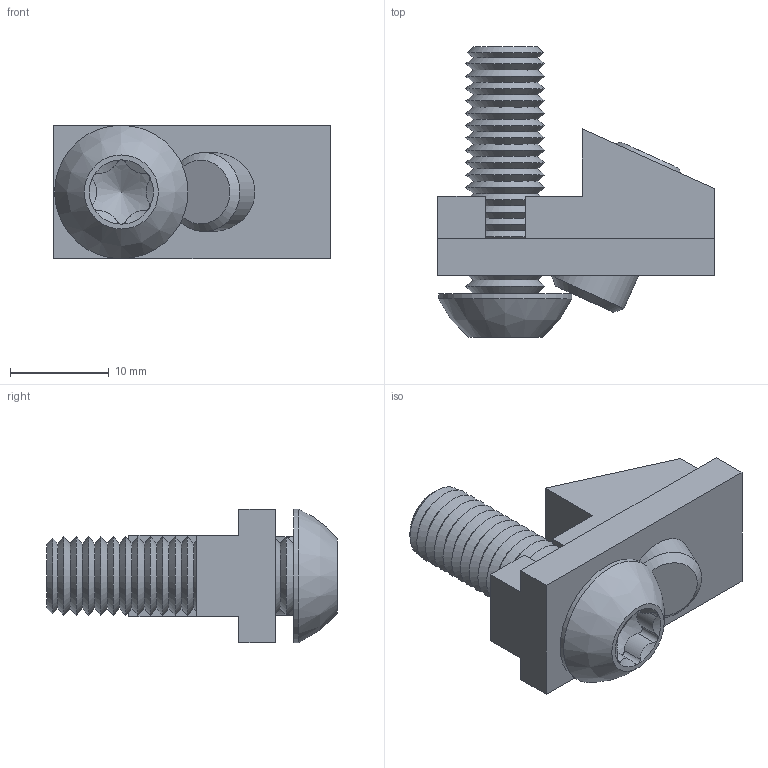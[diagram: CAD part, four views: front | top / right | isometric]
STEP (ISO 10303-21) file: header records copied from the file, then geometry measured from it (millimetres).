
FILE_DESCRIPTION((''),'2;1');
FILE_NAME('C:\Documents and Settings\Administrator\My Documents\Andys Backup Data\WEBSITE\DREAMWEAVER\MiniTec\Products\Profile_Fasteners\CAD\Step\21.0818 POWER-LOCK SF.stp','2012-06-05T11:53:31',('Administrator'),(''),'Autodesk Inventor 2009','Autodesk Inventor 2009','');
FILE_SCHEMA(('AUTOMOTIVE_DESIGN { 1 0 10303 214 1 1 1 1 }'));
Length unit declared in the file: millimetre
Products named in the file (5): 21.0818 POWER-LOCK SF; 21.1492 POWER-LOCK SF TORX SCREW; 21.1393_1 POWER-LOCK BODY WITH SS; 21.1393_2 POWER-LOCK BODY; 21.1301 M8X16 SET SCREW FLAT DIN 913
Assembly tree (4 placements, depth 3):
  21.0818 POWER-LOCK SF
    21.1492 POWER-LOCK SF TORX SCREW
    21.1393_1 POWER-LOCK BODY WITH SS
      21.1393_2 POWER-LOCK BODY
      21.1301 M8X16 SET SCREW FLAT DIN 913
Bounding box: 28 x 29.4 x 13.5 mm (x, y, z)
Volume: 3847.4 mm3; surface area: 3681.2 mm2
Topology: 3 solids, 3 shells, 97 faces, 230 edges, 139 vertices
Faces by surface type: cone 50, plane 27, cylinder 16, bspline 4
Full cylindrical faces by diameter (mm): 8 x2, 8.1 x1, 13.5 x1
Entity records: 2922 total; most frequent: CARTESIAN_POINT 837, DIRECTION 400, ORIENTED_EDGE 354, EDGE_CURVE 177, AXIS2_PLACEMENT_3D 163, EDGE_LOOP 150, VERTEX_POINT 135, FACE_OUTER_BOUND 97
